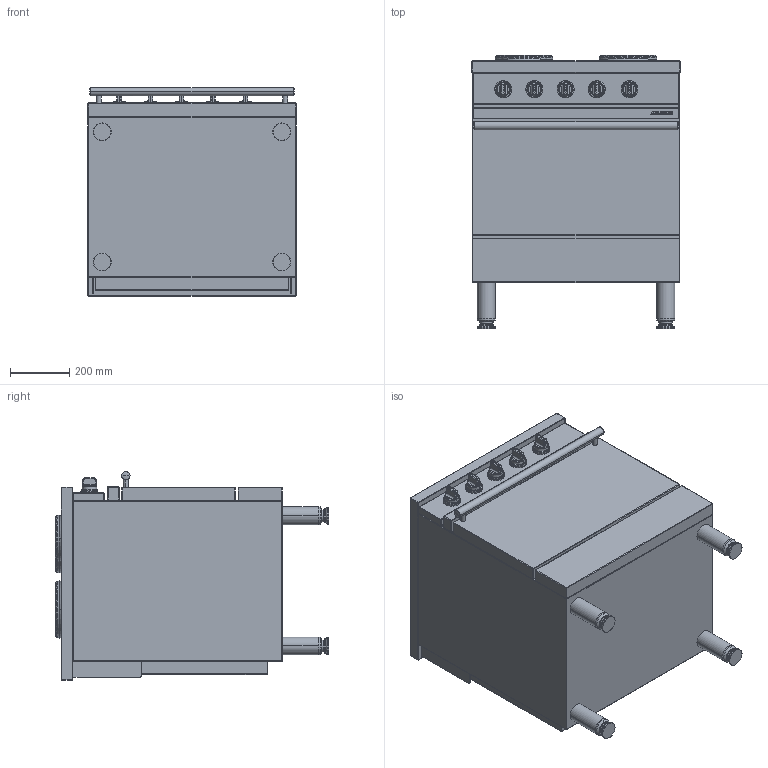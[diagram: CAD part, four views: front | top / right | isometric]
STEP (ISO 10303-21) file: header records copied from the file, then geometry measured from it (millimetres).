
FILE_DESCRIPTION((''),'2;1');
FILE_NAME('CE741E_EXPORT_STEP_ASM','2017-11-22T',('r.avril'),(''),'PRO/ENGINEER BY PARAMETRIC TECHNOLOGY CORPORATION, 2014200','PRO/ENGINEER BY PARAMETRIC TECHNOLOGY CORPORATION, 2014200','');
FILE_SCHEMA(('AP203_CONFIGURATION_CONTROLLED_3D_DESIGN_OF_MECHANICAL_PARTS_AND_ASSEMBLIES_MIM_LF { 1 0 10303 403 2 1 2 }'));
Length unit declared in the file: millimetre
Products named in the file (5): FOURNEAUX_AMB_700_EXPORT_STEP; TABLE_700_PLQ_ELEC; TABLE_700_PLQ_ELEC_ASM; MANETTE_AMB_EXPORT_STEP; CE741E_EXPORT_STEP_ASM
Assembly tree (8 placements, depth 3):
  CE741E_EXPORT_STEP_ASM
    FOURNEAUX_AMB_700_EXPORT_STEP
    TABLE_700_PLQ_ELEC_ASM
      TABLE_700_PLQ_ELEC
    MANETTE_AMB_EXPORT_STEP  x5
Bounding box: 700 x 918.8 x 703 mm (x, y, z)
Volume: 324274693.9 mm3; surface area: 5512457.2 mm2
Topology: 26 solids, 44 shells, 624 faces, 1981 edges, 1681 vertices
Faces by surface type: plane 184, cylinder 154, torus 92, cone 74, sphere 60, bspline 60
Entity records: 21768 total; most frequent: CARTESIAN_POINT 5687, DIRECTION 2664, ORIENTED_EDGE 2184, EDGE_CURVE 1317, AXIS2_PLACEMENT_3D 1000, VERTEX_POINT 953, VECTOR 649, LINE 649
